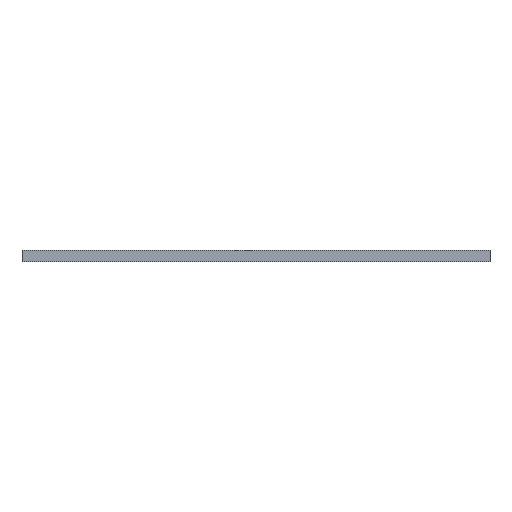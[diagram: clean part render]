
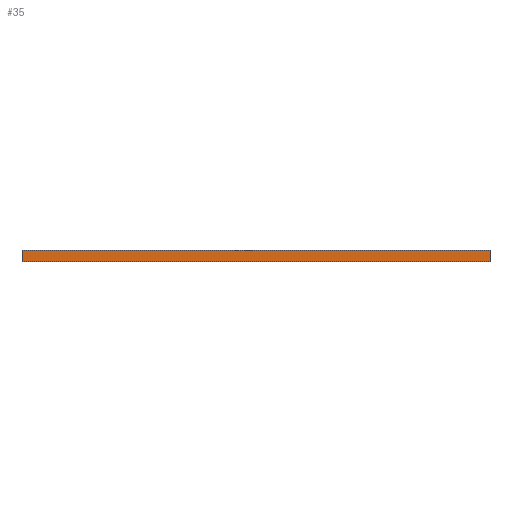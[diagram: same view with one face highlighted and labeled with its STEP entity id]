
A CAD part, front view. The second image highlights one B-rep face of the part: STEP entity #35.
In plain terms, the highlighted planar face has unit normal (0, -1, 0).
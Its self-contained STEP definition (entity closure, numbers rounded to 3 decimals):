
#35 = ADVANCED_FACE('',(#36),#70,.T.);
#36 = FACE_BOUND('',#37,.T.);
#37 = EDGE_LOOP('',(#38,#48,#56,#64));
#38 = ORIENTED_EDGE('',*,*,#39,.T.);
#39 = EDGE_CURVE('',#40,#42,#44,.T.);
#40 = VERTEX_POINT('',#41);
#41 = CARTESIAN_POINT('',(177.5,-147.,0.));
#42 = VERTEX_POINT('',#43);
#43 = CARTESIAN_POINT('',(177.5,-147.,1.51));
#44 = LINE('',#45,#46);
#45 = CARTESIAN_POINT('',(177.5,-147.,0.));
#46 = VECTOR('',#47,1.);
#47 = DIRECTION('',(0.,0.,1.));
#48 = ORIENTED_EDGE('',*,*,#49,.T.);
#49 = EDGE_CURVE('',#42,#50,#52,.T.);
#50 = VERTEX_POINT('',#51);
#51 = CARTESIAN_POINT('',(116.5,-147.,1.51));
#52 = LINE('',#53,#54);
#53 = CARTESIAN_POINT('',(177.5,-147.,1.51));
#54 = VECTOR('',#55,1.);
#55 = DIRECTION('',(-1.,0.,0.));
#56 = ORIENTED_EDGE('',*,*,#57,.F.);
#57 = EDGE_CURVE('',#58,#50,#60,.T.);
#58 = VERTEX_POINT('',#59);
#59 = CARTESIAN_POINT('',(116.5,-147.,0.));
#60 = LINE('',#61,#62);
#61 = CARTESIAN_POINT('',(116.5,-147.,0.));
#62 = VECTOR('',#63,1.);
#63 = DIRECTION('',(0.,0.,1.));
#64 = ORIENTED_EDGE('',*,*,#65,.F.);
#65 = EDGE_CURVE('',#40,#58,#66,.T.);
#66 = LINE('',#67,#68);
#67 = CARTESIAN_POINT('',(177.5,-147.,0.));
#68 = VECTOR('',#69,1.);
#69 = DIRECTION('',(-1.,0.,0.));
#70 = PLANE('',#71);
#71 = AXIS2_PLACEMENT_3D('',#72,#73,#74);
#72 = CARTESIAN_POINT('',(177.5,-147.,0.));
#73 = DIRECTION('',(0.,-1.,0.));
#74 = DIRECTION('',(-1.,0.,0.));
